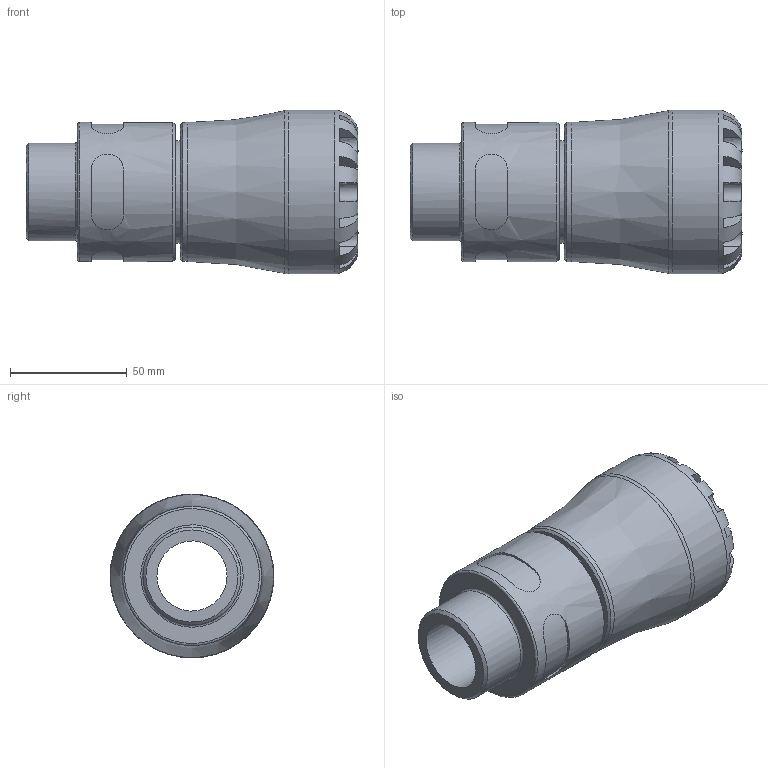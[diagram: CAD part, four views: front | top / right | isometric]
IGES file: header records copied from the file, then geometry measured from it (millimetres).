
Global section: file name: 10N200040013_10N2G0040013; native system: Autodesk Inventor 2019; preprocessor: unknown; author: KIM; date: 20240312.131944; units: millimetre
Bounding box: 142 x 70 x 70 mm (x, y, z)
Volume: 257413.9 mm3; surface area: 50881.7 mm2
Topology: 1 solids, 1 shells, 106 faces, 279 edges, 182 vertices
Faces by surface type: bspline 106
